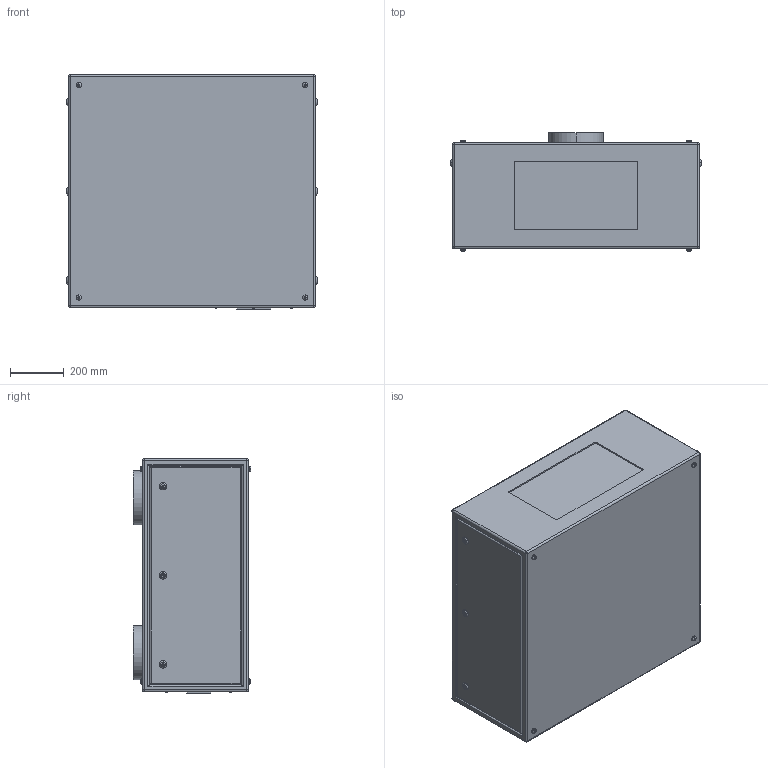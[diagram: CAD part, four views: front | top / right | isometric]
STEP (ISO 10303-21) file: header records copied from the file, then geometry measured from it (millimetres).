
FILE_DESCRIPTION (( 'STEP AP214' ), '1' );
FILE_NAME ('Tacit 56.125.L R07.STEP', '2022-09-11T22:46:12', ( '' ), ( '' ), 'SwSTEP 2.0', 'SolidWorks 2020', '' );
FILE_SCHEMA (( 'AUTOMOTIVE_DESIGN' ));
Length unit declared in the file: inch
Products named in the file (1): Tacit 56.125.L R07
Bounding box: 927.1 x 436.75 x 868.68 mm (x, y, z)
Volume: 310052399.9 mm3; surface area: 3272790.7 mm2
Topology: 1 solids, 5 shells, 383 faces, 852 edges, 536 vertices
Faces by surface type: plane 199, cylinder 136, torus 40, sphere 8
Entity records: 13917 total; most frequent: DIRECTION 1916, CARTESIAN_POINT 1812, ORIENTED_EDGE 1688, EDGE_CURVE 844, AXIS2_PLACEMENT_3D 704, VERTEX_POINT 536, VECTOR 508, LINE 508
